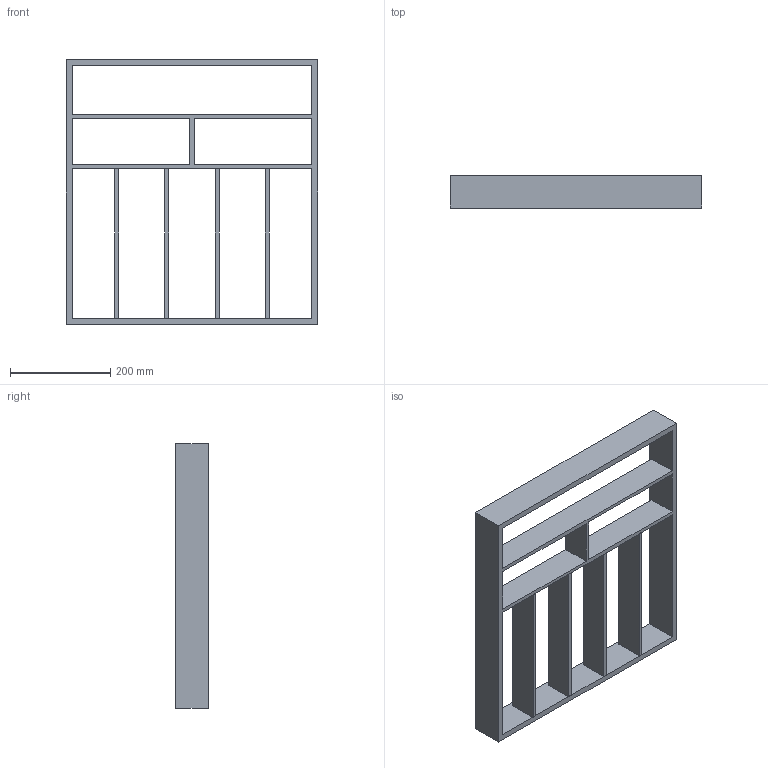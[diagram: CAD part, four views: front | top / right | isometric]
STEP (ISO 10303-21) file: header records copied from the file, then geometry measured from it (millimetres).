
FILE_DESCRIPTION (( 'STEP AP214' ), '1' );
FILE_NAME ('Vario Besteck NL550_B600_19 mm_Alu.step', '2010-11-04T08:33:23', ( 'grass' ), ( '' ), 'SwSTEP 2.0', 'SolidWorks 2010', '' );
FILE_SCHEMA (( 'AUTOMOTIVE_DESIGN' ));
Length unit declared in the file: millimetre
Products named in the file (1): Vario Besteck NL550_B600_19 mm_Alu
Bounding box: 502 x 65 x 529 mm (x, y, z)
Volume: 2594184 mm3; surface area: 602788 mm2
Topology: 5 solids, 5 shells, 43 faces, 108 edges, 72 vertices
Faces by surface type: plane 43
Entity records: 1348 total; most frequent: CARTESIAN_POINT 224, ORIENTED_EDGE 216, DIRECTION 196, EDGE_CURVE 108, VECTOR 108, LINE 108, VERTEX_POINT 72, EDGE_LOOP 48
